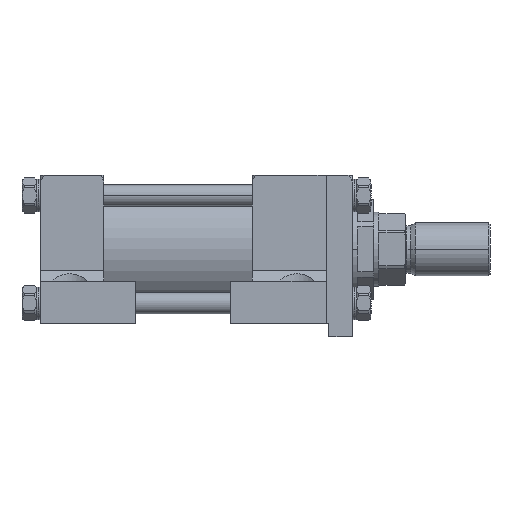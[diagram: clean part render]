
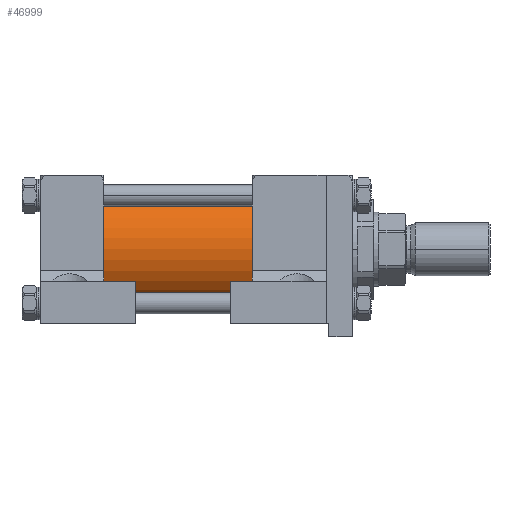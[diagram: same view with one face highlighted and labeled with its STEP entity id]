
A CAD part, front view. The second image highlights one B-rep face of the part: STEP entity #46999.
In plain terms, the highlighted cylindrical face has radius 38.1 mm (diameter 76.2 mm), a partial arc.
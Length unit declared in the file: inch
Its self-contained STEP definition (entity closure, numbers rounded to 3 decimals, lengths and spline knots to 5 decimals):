
#3955 = VERTEX_POINT ( 'NONE', #13617 ) ;
#5609 = VERTEX_POINT ( 'NONE', #34819 ) ;
#8723 = LINE ( 'NONE', #46732, #58773 ) ;
#9584 = ORIENTED_EDGE ( 'NONE', *, *, #51635, .T. ) ;
#9769 = EDGE_CURVE ( 'NONE', #5609, #49304, #8723, .T. ) ;
#13617 = CARTESIAN_POINT ( 'NONE',  ( -3.375, 0., -1.5 ) ) ;
#14214 = DIRECTION ( 'NONE',  ( 0., 1., 0. ) ) ;
#15226 = ORIENTED_EDGE ( 'NONE', *, *, #51325, .T. ) ;
#17466 = AXIS2_PLACEMENT_3D ( 'NONE', #47022, #50552, #22977 ) ;
#19783 = DIRECTION ( 'NONE',  ( 1., 0., 0. ) ) ;
#20776 = CARTESIAN_POINT ( 'NONE',  ( -7.375, 0., 0. ) ) ;
#21001 = AXIS2_PLACEMENT_3D ( 'NONE', #20776, #40115, #14214 ) ;
#22977 = DIRECTION ( 'NONE',  ( 0., 1., 0. ) ) ;
#24671 = DIRECTION ( 'NONE',  ( 0., 0., -1. ) ) ;
#28027 = EDGE_CURVE ( 'NONE', #49304, #3955, #29682, .T. ) ;
#29292 = LINE ( 'NONE', #34659, #40269 ) ;
#29682 = CIRCLE ( 'NONE', #17466, 1.5 ) ;
#29752 = CYLINDRICAL_SURFACE ( 'NONE', #41319, 1.5 ) ;
#29914 = DIRECTION ( 'NONE',  ( 1., 0., 0. ) ) ;
#30063 = FACE_OUTER_BOUND ( 'NONE', #31980, .T. ) ;
#31980 = EDGE_LOOP ( 'NONE', ( #50064, #15226, #9584, #59260 ) ) ;
#34659 = CARTESIAN_POINT ( 'NONE',  ( -7.375, 0., -1.5 ) ) ;
#34819 = CARTESIAN_POINT ( 'NONE',  ( -7.375, 0., 1.5 ) ) ;
#37431 = VERTEX_POINT ( 'NONE', #60141 ) ;
#38042 = CARTESIAN_POINT ( 'NONE',  ( -3.375, 0., 1.5 ) ) ;
#40115 = DIRECTION ( 'NONE',  ( 1., 0., 0. ) ) ;
#40221 = CIRCLE ( 'NONE', #21001, 1.5 ) ;
#40269 = VECTOR ( 'NONE', #29914, 39.37008 ) ;
#41319 = AXIS2_PLACEMENT_3D ( 'NONE', #54385, #44277, #24671 ) ;
#44277 = DIRECTION ( 'NONE',  ( 1., 0., 0. ) ) ;
#46732 = CARTESIAN_POINT ( 'NONE',  ( -7.375, 0., 1.5 ) ) ;
#46999 = ADVANCED_FACE ( 'NONE', ( #30063 ), #29752, .T. ) ;
#47022 = CARTESIAN_POINT ( 'NONE',  ( -3.375, 0., 0. ) ) ;
#49304 = VERTEX_POINT ( 'NONE', #38042 ) ;
#50064 = ORIENTED_EDGE ( 'NONE', *, *, #9769, .F. ) ;
#50552 = DIRECTION ( 'NONE',  ( 1., 0., 0. ) ) ;
#51325 = EDGE_CURVE ( 'NONE', #5609, #37431, #40221, .T. ) ;
#51635 = EDGE_CURVE ( 'NONE', #37431, #3955, #29292, .T. ) ;
#54385 = CARTESIAN_POINT ( 'NONE',  ( -7.375, 0., 0. ) ) ;
#58773 = VECTOR ( 'NONE', #19783, 39.37008 ) ;
#59260 = ORIENTED_EDGE ( 'NONE', *, *, #28027, .F. ) ;
#60141 = CARTESIAN_POINT ( 'NONE',  ( -7.375, 0., -1.5 ) ) ;
